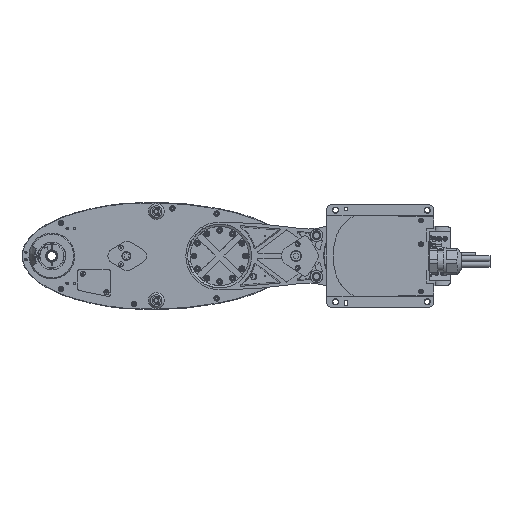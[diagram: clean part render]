
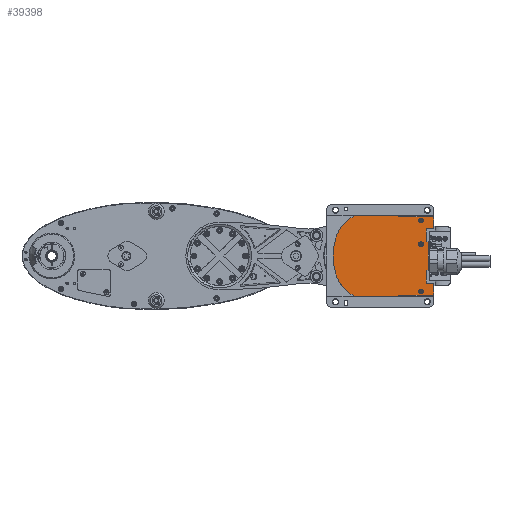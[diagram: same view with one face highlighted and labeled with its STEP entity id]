
A CAD part, front view. The second image highlights one B-rep face of the part: STEP entity #39398.
In plain terms, the highlighted planar face has unit normal (0, -1, 0).
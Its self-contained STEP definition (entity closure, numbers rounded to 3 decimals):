
#1533=PLANE('',#58731);
#5053=LINE('',#81881,#8768);
#5054=LINE('',#81883,#8769);
#5056=LINE('',#81887,#8771);
#5058=LINE('',#81897,#8773);
#5059=LINE('',#81899,#8774);
#5060=LINE('',#81903,#8775);
#5061=LINE('',#81907,#8776);
#5062=LINE('',#81909,#8777);
#5063=LINE('',#81911,#8778);
#5064=LINE('',#81913,#8779);
#5065=LINE('',#81915,#8780);
#5066=LINE('',#81917,#8781);
#5067=LINE('',#81919,#8782);
#5068=LINE('',#81923,#8783);
#5069=LINE('',#81927,#8784);
#8768=VECTOR('',#68237,1000.);
#8769=VECTOR('',#68240,1000.);
#8771=VECTOR('',#68244,1000.);
#8773=VECTOR('',#68254,1000.);
#8774=VECTOR('',#68255,1000.);
#8775=VECTOR('',#68258,1000.);
#8776=VECTOR('',#68261,1000.);
#8777=VECTOR('',#68262,1000.);
#8778=VECTOR('',#68263,1000.);
#8779=VECTOR('',#68264,1000.);
#8780=VECTOR('',#68265,1000.);
#8781=VECTOR('',#68266,1000.);
#8782=VECTOR('',#68267,1000.);
#8783=VECTOR('',#68270,1000.);
#8784=VECTOR('',#68273,1000.);
#17894=ORIENTED_EDGE('',*,*,#24706,.F.);
#17895=ORIENTED_EDGE('',*,*,#24707,.F.);
#17896=ORIENTED_EDGE('',*,*,#24708,.F.);
#17897=ORIENTED_EDGE('',*,*,#24704,.F.);
#17898=ORIENTED_EDGE('',*,*,#24702,.T.);
#17899=ORIENTED_EDGE('',*,*,#24682,.F.);
#17900=ORIENTED_EDGE('',*,*,#24688,.F.);
#17901=ORIENTED_EDGE('',*,*,#24676,.F.);
#17902=ORIENTED_EDGE('',*,*,#24701,.F.);
#17903=ORIENTED_EDGE('',*,*,#24709,.F.);
#17904=ORIENTED_EDGE('',*,*,#24710,.F.);
#17905=ORIENTED_EDGE('',*,*,#24711,.F.);
#17906=ORIENTED_EDGE('',*,*,#24712,.F.);
#17907=ORIENTED_EDGE('',*,*,#24713,.F.);
#17908=ORIENTED_EDGE('',*,*,#24714,.F.);
#17909=ORIENTED_EDGE('',*,*,#24715,.F.);
#17910=ORIENTED_EDGE('',*,*,#24716,.F.);
#17911=ORIENTED_EDGE('',*,*,#24717,.F.);
#17912=ORIENTED_EDGE('',*,*,#24718,.F.);
#17913=ORIENTED_EDGE('',*,*,#24719,.F.);
#17914=ORIENTED_EDGE('',*,*,#24720,.F.);
#17915=ORIENTED_EDGE('',*,*,#24721,.F.);
#17916=ORIENTED_EDGE('',*,*,#24722,.F.);
#17917=ORIENTED_EDGE('',*,*,#24723,.F.);
#17918=ORIENTED_EDGE('',*,*,#24724,.F.);
#24676=EDGE_CURVE('',#28827,#28828,#30720,.T.);
#24682=EDGE_CURVE('',#28833,#28834,#30723,.T.);
#24688=EDGE_CURVE('',#28828,#28833,#30726,.T.);
#24701=EDGE_CURVE('',#28843,#28827,#5053,.T.);
#24702=EDGE_CURVE('',#28844,#28834,#5054,.T.);
#24704=EDGE_CURVE('',#28844,#28845,#5056,.T.);
#24706=EDGE_CURVE('',#28846,#28846,#30732,.F.);
#24707=EDGE_CURVE('',#28847,#28847,#30733,.F.);
#24708=EDGE_CURVE('',#28848,#28848,#30734,.F.);
#24709=EDGE_CURVE('',#28849,#28843,#5058,.T.);
#24710=EDGE_CURVE('',#28850,#28849,#5059,.T.);
#24711=EDGE_CURVE('',#28851,#28850,#30735,.T.);
#24712=EDGE_CURVE('',#28852,#28851,#5060,.T.);
#24713=EDGE_CURVE('',#28853,#28852,#30736,.T.);
#24714=EDGE_CURVE('',#28854,#28853,#5061,.T.);
#24715=EDGE_CURVE('',#28855,#28854,#5062,.T.);
#24716=EDGE_CURVE('',#28856,#28855,#5063,.T.);
#24717=EDGE_CURVE('',#28857,#28856,#5064,.T.);
#24718=EDGE_CURVE('',#28858,#28857,#5065,.T.);
#24719=EDGE_CURVE('',#28859,#28858,#5066,.T.);
#24720=EDGE_CURVE('',#28860,#28859,#5067,.T.);
#24721=EDGE_CURVE('',#28861,#28860,#30737,.T.);
#24722=EDGE_CURVE('',#28862,#28861,#5068,.T.);
#24723=EDGE_CURVE('',#28863,#28862,#30738,.T.);
#24724=EDGE_CURVE('',#28845,#28863,#5069,.T.);
#28827=VERTEX_POINT('',#81832);
#28828=VERTEX_POINT('',#81833);
#28833=VERTEX_POINT('',#81845);
#28834=VERTEX_POINT('',#81846);
#28843=VERTEX_POINT('',#81880);
#28844=VERTEX_POINT('',#81884);
#28845=VERTEX_POINT('',#81888);
#28846=VERTEX_POINT('',#81892);
#28847=VERTEX_POINT('',#81894);
#28848=VERTEX_POINT('',#81896);
#28849=VERTEX_POINT('',#81898);
#28850=VERTEX_POINT('',#81900);
#28851=VERTEX_POINT('',#81902);
#28852=VERTEX_POINT('',#81904);
#28853=VERTEX_POINT('',#81906);
#28854=VERTEX_POINT('',#81908);
#28855=VERTEX_POINT('',#81910);
#28856=VERTEX_POINT('',#81912);
#28857=VERTEX_POINT('',#81914);
#28858=VERTEX_POINT('',#81916);
#28859=VERTEX_POINT('',#81918);
#28860=VERTEX_POINT('',#81920);
#28861=VERTEX_POINT('',#81922);
#28862=VERTEX_POINT('',#81924);
#28863=VERTEX_POINT('',#81926);
#30720=CIRCLE('',#58709,60.16);
#30723=CIRCLE('',#58713,60.16);
#30726=CIRCLE('',#58717,109.9);
#30732=CIRCLE('',#58732,3.922);
#30733=CIRCLE('',#58733,3.922);
#30734=CIRCLE('',#58734,3.922);
#30735=CIRCLE('',#58735,2.);
#30736=CIRCLE('',#58736,2.);
#30737=CIRCLE('',#58737,2.);
#30738=CIRCLE('',#58738,2.);
#33314=EDGE_LOOP('',(#17894));
#33315=EDGE_LOOP('',(#17895));
#33316=EDGE_LOOP('',(#17896));
#33317=EDGE_LOOP('',(#17897,#17898,#17899,#17900,#17901,#17902,#17903,#17904,
#17905,#17906,#17907,#17908,#17909,#17910,#17911,#17912,#17913,#17914,#17915,
#17916,#17917,#17918));
#36426=FACE_BOUND('',#33314,.T.);
#36427=FACE_BOUND('',#33315,.T.);
#36428=FACE_BOUND('',#33316,.T.);
#36429=FACE_BOUND('',#33317,.T.);
#39398=ADVANCED_FACE('',(#36426,#36427,#36428,#36429),#1533,.F.);
#58709=AXIS2_PLACEMENT_3D('',#81831,#68184,#68185);
#58713=AXIS2_PLACEMENT_3D('',#81844,#68195,#68196);
#58717=AXIS2_PLACEMENT_3D('',#81857,#68206,#68207);
#58731=AXIS2_PLACEMENT_3D('',#81890,#68246,#68247);
#58732=AXIS2_PLACEMENT_3D('',#81891,#68248,#68249);
#58733=AXIS2_PLACEMENT_3D('',#81893,#68250,#68251);
#58734=AXIS2_PLACEMENT_3D('',#81895,#68252,#68253);
#58735=AXIS2_PLACEMENT_3D('',#81901,#68256,#68257);
#58736=AXIS2_PLACEMENT_3D('',#81905,#68259,#68260);
#58737=AXIS2_PLACEMENT_3D('',#81921,#68268,#68269);
#58738=AXIS2_PLACEMENT_3D('',#81925,#68271,#68272);
#68184=DIRECTION('',(0.,1.,0.));
#68185=DIRECTION('',(1.,0.,0.));
#68195=DIRECTION('',(0.,1.,0.));
#68196=DIRECTION('',(1.,0.,0.));
#68206=DIRECTION('',(0.,1.,0.));
#68207=DIRECTION('',(1.,0.,0.));
#68237=DIRECTION('',(-1.,0.,0.));
#68240=DIRECTION('',(-1.,0.,0.));
#68244=DIRECTION('',(0.951,0.,-0.309));
#68246=DIRECTION('',(0.,1.,0.));
#68247=DIRECTION('',(0.,0.,1.));
#68248=DIRECTION('',(0.,1.,0.));
#68249=DIRECTION('',(0.,0.,1.));
#68250=DIRECTION('',(0.,1.,0.));
#68251=DIRECTION('',(0.,0.,1.));
#68252=DIRECTION('',(0.,1.,0.));
#68253=DIRECTION('',(0.,0.,1.));
#68254=DIRECTION('',(-0.951,0.,-0.309));
#68255=DIRECTION('',(-1.,0.,0.));
#68256=DIRECTION('',(0.,1.,0.));
#68257=DIRECTION('',(1.,0.,0.));
#68258=DIRECTION('',(0.,0.,-1.));
#68259=DIRECTION('',(0.,1.,0.));
#68260=DIRECTION('',(1.,0.,0.));
#68261=DIRECTION('',(1.,0.,0.));
#68262=DIRECTION('',(0.,0.,-1.));
#68263=DIRECTION('',(-1.,0.,0.));
#68264=DIRECTION('',(0.,0.,-1.));
#68265=DIRECTION('',(1.,0.,0.));
#68266=DIRECTION('',(0.,0.,-1.));
#68267=DIRECTION('',(-1.,0.,0.));
#68268=DIRECTION('',(0.,1.,0.));
#68269=DIRECTION('',(1.,0.,0.));
#68270=DIRECTION('',(0.,0.,-1.));
#68271=DIRECTION('',(0.,1.,0.));
#68272=DIRECTION('',(1.,0.,0.));
#68273=DIRECTION('',(1.,0.,0.));
#81831=CARTESIAN_POINT('',(12.6,5.,-12.));
#81832=CARTESIAN_POINT('',(-13.959,5.,-65.98));
#81833=CARTESIAN_POINT('',(-43.729,5.,-33.125));
#81844=CARTESIAN_POINT('',(12.6,5.,12.));
#81845=CARTESIAN_POINT('',(-43.729,5.,33.125));
#81846=CARTESIAN_POINT('',(-14.081,5.,65.92));
#81857=CARTESIAN_POINT('',(61.06,5.,0.));
#81880=CARTESIAN_POINT('',(55.21,5.,-65.98));
#81881=CARTESIAN_POINT('',(55.21,5.,-65.98));
#81883=CARTESIAN_POINT('',(-14.081,5.,65.92));
#81884=CARTESIAN_POINT('',(55.395,5.,65.92));
#81887=CARTESIAN_POINT('',(55.21,5.,65.98));
#81888=CARTESIAN_POINT('',(59.765,5.,64.5));
#81890=CARTESIAN_POINT('',(12.6,5.,-12.));
#81891=CARTESIAN_POINT('',(95.,5.,-58.));
#81892=CARTESIAN_POINT('',(95.,5.,-54.079));
#81893=CARTESIAN_POINT('',(95.,5.,19.5));
#81894=CARTESIAN_POINT('',(95.,5.,23.422));
#81895=CARTESIAN_POINT('',(95.,5.,58.));
#81896=CARTESIAN_POINT('',(95.,5.,61.922));
#81897=CARTESIAN_POINT('',(59.765,5.,-64.5));
#81898=CARTESIAN_POINT('',(59.765,5.,-64.5));
#81899=CARTESIAN_POINT('',(113.684,5.,-64.5));
#81900=CARTESIAN_POINT('',(113.684,5.,-64.5));
#81901=CARTESIAN_POINT('',(113.684,5.,-62.5));
#81902=CARTESIAN_POINT('',(115.684,5.,-62.5));
#81903=CARTESIAN_POINT('',(115.684,5.,-46.5));
#81904=CARTESIAN_POINT('',(115.684,5.,-46.5));
#81905=CARTESIAN_POINT('',(113.684,5.,-46.5));
#81906=CARTESIAN_POINT('',(113.684,5.,-44.5));
#81907=CARTESIAN_POINT('',(103.684,5.,-44.5));
#81908=CARTESIAN_POINT('',(103.684,5.,-44.5));
#81909=CARTESIAN_POINT('',(103.684,5.,-23.5));
#81910=CARTESIAN_POINT('',(103.684,5.,-23.5));
#81911=CARTESIAN_POINT('',(106.684,5.,-23.5));
#81912=CARTESIAN_POINT('',(106.684,5.,-23.5));
#81913=CARTESIAN_POINT('',(106.684,5.,23.5));
#81914=CARTESIAN_POINT('',(106.684,5.,23.5));
#81915=CARTESIAN_POINT('',(103.684,5.,23.5));
#81916=CARTESIAN_POINT('',(103.684,5.,23.5));
#81917=CARTESIAN_POINT('',(103.684,5.,44.5));
#81918=CARTESIAN_POINT('',(103.684,5.,44.5));
#81919=CARTESIAN_POINT('',(113.684,5.,44.5));
#81920=CARTESIAN_POINT('',(113.684,5.,44.5));
#81921=CARTESIAN_POINT('',(113.684,5.,46.5));
#81922=CARTESIAN_POINT('',(115.684,5.,46.5));
#81923=CARTESIAN_POINT('',(115.684,5.,62.5));
#81924=CARTESIAN_POINT('',(115.684,5.,62.5));
#81925=CARTESIAN_POINT('',(113.684,5.,62.5));
#81926=CARTESIAN_POINT('',(113.684,5.,64.5));
#81927=CARTESIAN_POINT('',(59.765,5.,64.5));
